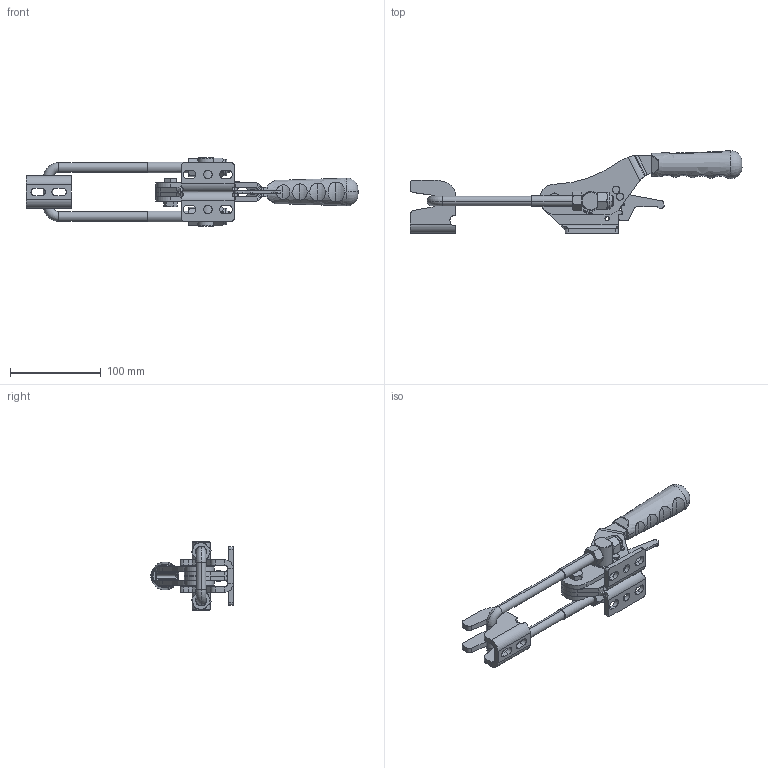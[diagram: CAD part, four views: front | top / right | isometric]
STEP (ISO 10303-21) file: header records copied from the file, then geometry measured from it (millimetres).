
FILE_DESCRIPTION (( 'STEP AP203' ), '1' );
FILE_NAME ('13012_Y_K.STEP', '2022-11-30T09:58:04', ( '' ), ( '' ), 'SwSTEP 2.0', 'SolidWorks 2023', '' );
FILE_SCHEMA (( 'CONFIG_CONTROL_DESIGN' ));
Length unit declared in the file: millimetre
Products named in the file (18): Aynalama13210 Gövde; mandal 2; 13010 H kolu; 07210-12; 13210 Gövde; mandal 1; circlips_o20-uni_7435; 5-12-1330659; 1391_Kanca mili_Varsayılan; M8 Somun_Varsayılan; C100_T_10x20(YENİ_TUTAMAK_10x20)_Varsayılan; 13012_Y_K; Aynalama13010 H kolu; M12_U_Kanca_Varsayılan; Karşılık kancası m 12; hexagon_bolt_jis_b_1180_c_m8_x25_Varsayılan; Pim_5x22_Varsayılan; autolock_nut_h_fr_nf_e_25-409_m12_6_1
Assembly tree (21 placements, depth 2):
  mandal 2
  13012_Y_K
    13210 Gövde
    13010 H kolu
    Aynalama13210 Gövde
    1391_Kanca mili_Varsayılan
    mandal 1
    Pim_5x22_Varsayılan  x3
    M8 Somun_Varsayılan
    M12_U_Kanca_Varsayılan
    Karşılık kancası m 12
    Aynalama13010 H kolu
    07210-12  x2
    5-12-1330659
    autolock_nut_h_fr_nf_e_25-409_m12_6_1  x2
    circlips_o20-uni_7435  x2
    hexagon_bolt_jis_b_1180_c_m8_x25_Varsayılan
    C100_T_10x20(YENİ_TUTAMAK_10x20)_Varsayılan
Bounding box: 365.82 x 90.7 x 75 mm (x, y, z)
Volume: 245641.2 mm3; surface area: 112943 mm2
Topology: 21 solids, 21 shells, 814 faces, 2046 edges, 1297 vertices
Faces by surface type: plane 408, cylinder 258, cone 76, torus 40, bspline 32
Entity records: 24669 total; most frequent: CARTESIAN_POINT 7441, ORIENTED_EDGE 3202, DIRECTION 3127, EDGE_CURVE 1601, AXIS2_PLACEMENT_3D 1137, VERTEX_POINT 1019, VECTOR 853, LINE 853
